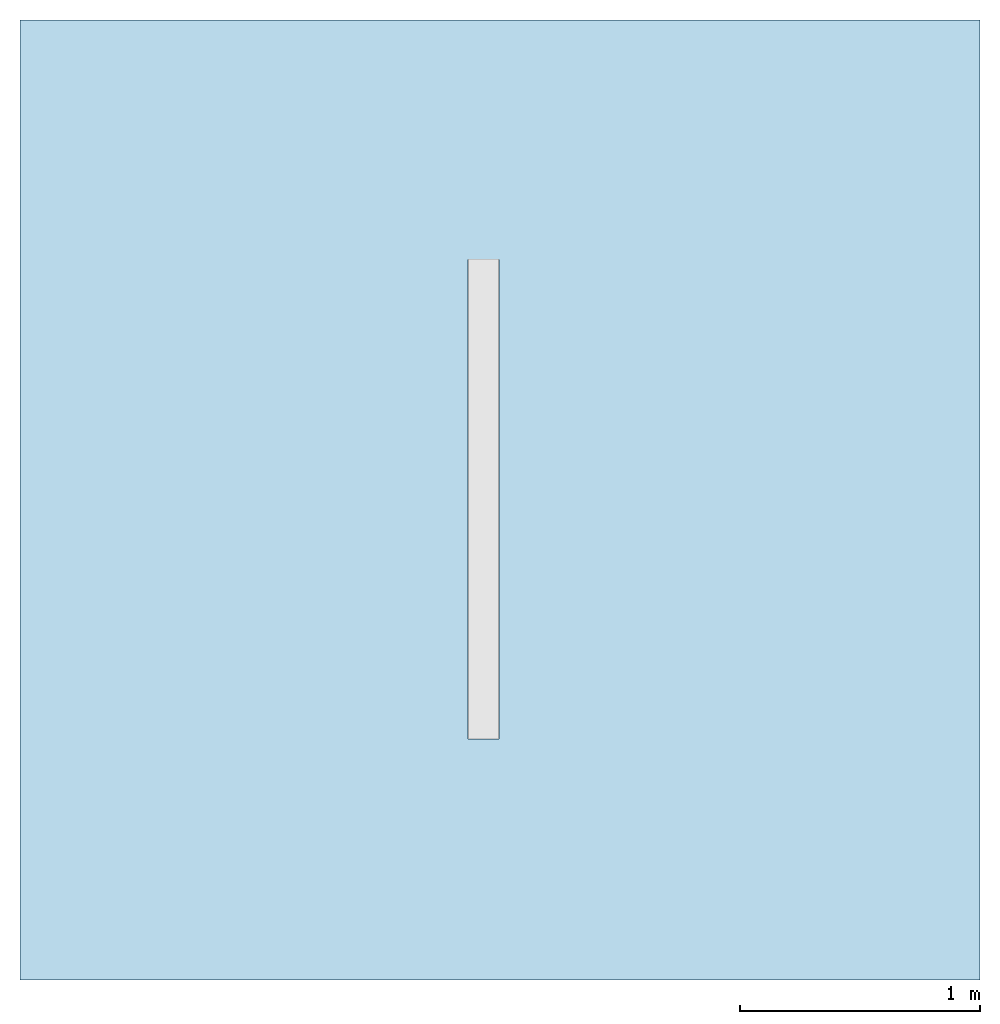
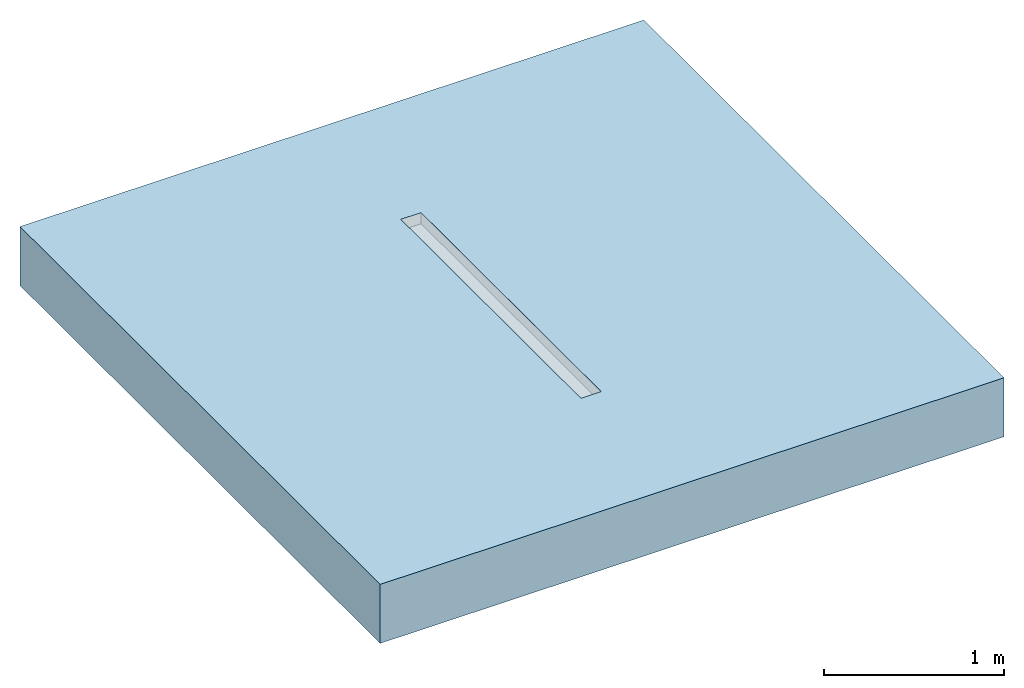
# One storey, incomplete: 1 slab.
"""IFC2X3 building model written with IfcOpenShell, lengths in millimetres."""

from ifc_helpers import new_model, entity, si_unit, converted_unit, derived_unit, direction, frame, frame_2d, origin, place, context, subcontext, project, spatial, polyline, rectangle, extrude, clip, bounded_halfspace, material, layer, layer_set, layer_usage, element, save


model = new_model("IFC2X3")

# Units and contexts
model_context = context("Model", 3, precision=1e-05, world=origin(), true_north=direction((2.0, 6.12303176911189e-17, 1.0)))
context_of_model = context(None, 3, precision=1e-05, world=origin(), true_north=direction((2.0, 6.12303176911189e-17, 1.0)))
body_context = subcontext(model_context, "Body", "Model", "MODEL_VIEW")
ifc_project = project(units=[si_unit("LENGTHUNIT", "METRE", prefix="MILLI"), si_unit("AREAUNIT", "SQUARE_METRE"), si_unit("VOLUMEUNIT", "CUBIC_METRE"), converted_unit("PLANEANGLEUNIT", "DEGREE", entity("IfcRatioMeasure", 0.0174532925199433), si_unit("PLANEANGLEUNIT", "RADIAN"), dimensions=[0, 0, 0, 0, 0, 0, 0]), si_unit("MASSUNIT", "GRAM", prefix="KILO"), si_unit("TIMEUNIT", "SECOND"), si_unit("THERMODYNAMICTEMPERATUREUNIT", "KELVIN"), derived_unit("THERMALTRANSMITTANCEUNIT", [(si_unit("MASSUNIT", "GRAM", prefix="KILO"), 1), (si_unit("THERMODYNAMICTEMPERATUREUNIT", "KELVIN"), -1), (si_unit("TIMEUNIT", "SECOND"), -3)]), derived_unit("VOLUMETRICFLOWRATEUNIT", [(si_unit("LENGTHUNIT", "METRE"), 3), (si_unit("TIMEUNIT", "SECOND"), -1)]), si_unit("POWERUNIT", "WATT")], contexts=[model_context, context_of_model])

# Site, building, storey
site_placement = place(None, origin())
site = spatial("IfcSite", under=ifc_project, at=site_placement, Name="Default", CompositionType="ELEMENT")
building_placement = place(site_placement, origin())
building = spatial("IfcBuilding", under=site, at=building_placement, CompositionType="ELEMENT")
storey_placement = place(building_placement, origin())
storey = spatial("IfcBuildingStorey", under=building, at=storey_placement, Name="Level 1", CompositionType="ELEMENT", Elevation=0.0)

# Slab
ifc_material = material(Name="Concrete, Broom Finish")
ifc_layer = layer(ifc_material, 400.0)
ifc_layer_set = layer_set([ifc_layer], Name="Floor:Generic Floor - 400mm")
ifc_layer_usage = layer_usage(ifc_layer_set, "AXIS3", "POSITIVE", 0.0)
slab_placement = place(storey_placement, origin())
element("IfcSlab", 1, at=slab_placement, inside=storey, material=ifc_layer_usage, Name="Floor:Generic Floor - 400mm", ObjectType="Floor:Generic Floor - 400mm", PredefinedType="FLOOR", context=body_context, shape_type="Clipping", body=[
    clip(extrude(rectangle(XDim=4000.0, YDim=4000.0, at=frame_2d((3.41060513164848e-13, 0.0), x_axis=(1.0, 0.0))), frame((-42.1761383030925, 2.05004766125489, 0.0), z_axis=(0.0, 0.0, -1.0), x_axis=(0.0, 1.0, 0.0)), (0.0, 0.0, 1.0), 400.0), bounded_halfspace(frame((-175.926138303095, -994.824952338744, -75.0)), False, frame((-42.1761383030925, 2.05004766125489, 0.0), z_axis=(0.0, 0.0, -1.0), x_axis=(0.0, 1.0, 0.0)), polyline([(-996.874999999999, -133.75), (-996.874999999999, -3.75000000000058), (1003.125, -3.7500000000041), (1003.125, -133.750000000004), (-996.874999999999, -133.75)]))),
])

save(model, "model.ifc")
